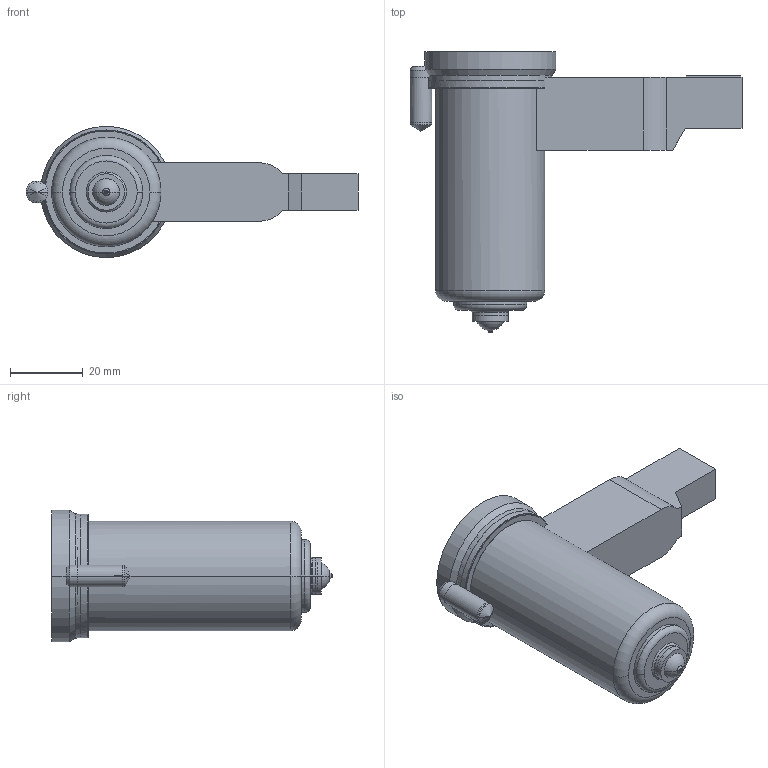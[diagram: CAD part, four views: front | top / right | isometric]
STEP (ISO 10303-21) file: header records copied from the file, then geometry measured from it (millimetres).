
FILE_DESCRIPTION((''),'2;1');
FILE_NAME('SV250005-TYPE2_ASM','2013-04-30T',('benoit'),(''),'PRO/ENGINEER BY PARAMETRIC TECHNOLOGY CORPORATION, 2007450','PRO/ENGINEER BY PARAMETRIC TECHNOLOGY CORPORATION, 2007450','');
FILE_SCHEMA(('CONFIG_CONTROL_DESIGN'));
Length unit declared in the file: millimetre
Products named in the file (8): MB250005; BF250001; TP250502; TP250403; GOUPILLE-6-16; 18X1_2E; SV6-POCHE-77-T2; SV250005-TYPE2_ASM
Assembly tree (7 placements, depth 2):
  SV250005-TYPE2_ASM
    MB250005
    BF250001
    TP250502
    TP250403
    GOUPILLE-6-16
    18X1_2E
    SV6-POCHE-77-T2
Bounding box: 91 x 76.88 x 36 mm (x, y, z)
Volume: 94549 mm3; surface area: 38119 mm2
Topology: 9 solids, 9 shells, 243 faces, 579 edges, 359 vertices
Faces by surface type: cylinder 96, plane 69, cone 40, torus 16, bspline 14, sphere 8
Entity records: 10241 total; most frequent: CARTESIAN_POINT 4386, DIRECTION 1272, ORIENTED_EDGE 1146, EDGE_CURVE 573, AXIS2_PLACEMENT_3D 520, VERTEX_POINT 359, CIRCLE 276, EDGE_LOOP 264
